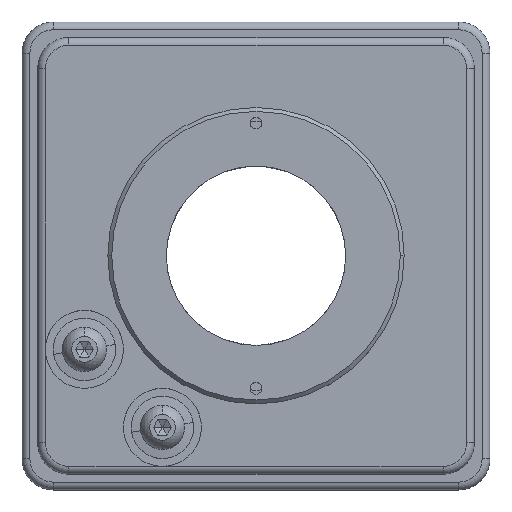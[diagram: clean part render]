
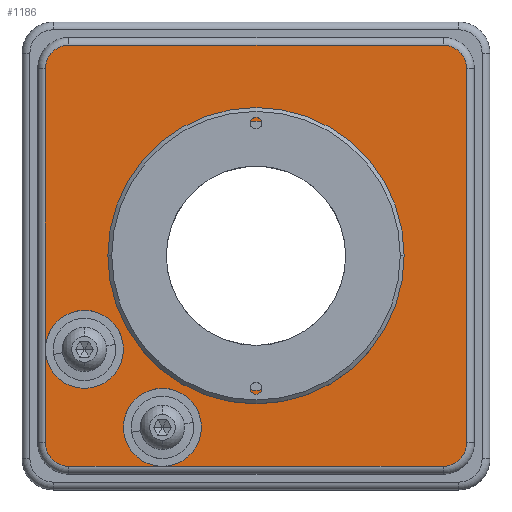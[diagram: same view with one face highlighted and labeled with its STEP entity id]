
A CAD part, top view. The second image highlights one B-rep face of the part: STEP entity #1186.
In plain terms, the highlighted planar face has unit normal (0, 0, 1).
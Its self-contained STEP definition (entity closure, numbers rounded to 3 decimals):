
#52 = VECTOR ( 'NONE', #1937, 1000. ) ;
#121 = VERTEX_POINT ( 'NONE', #7230 ) ;
#160 = EDGE_CURVE ( 'NONE', #1125, #2885, #7337, .T. ) ;
#247 = FACE_OUTER_BOUND ( 'NONE', #3366, .T. ) ;
#256 = LINE ( 'NONE', #1835, #7235 ) ;
#306 = VERTEX_POINT ( 'NONE', #1409 ) ;
#355 = EDGE_CURVE ( 'NONE', #8410, #6464, #5867, .T. ) ;
#435 = DIRECTION ( 'NONE',  ( 1., 0., 0. ) ) ;
#489 = LINE ( 'NONE', #5957, #2106 ) ;
#622 = VERTEX_POINT ( 'NONE', #7170 ) ;
#628 = EDGE_CURVE ( 'NONE', #121, #1125, #5755, .T. ) ;
#637 = VERTEX_POINT ( 'NONE', #5844 ) ;
#650 = EDGE_CURVE ( 'NONE', #8393, #6468, #1967, .T. ) ;
#658 = DIRECTION ( 'NONE',  ( 1., 0., 0. ) ) ;
#766 = CIRCLE ( 'NONE', #3769, 3. ) ;
#839 = CARTESIAN_POINT ( 'NONE',  ( 0., 0., 18. ) ) ;
#889 = DIRECTION ( 'NONE',  ( 0., 1., 0. ) ) ;
#1072 = CARTESIAN_POINT ( 'NONE',  ( -17., -12., 18. ) ) ;
#1113 = ORIENTED_EDGE ( 'NONE', *, *, #4058, .T. ) ;
#1125 = VERTEX_POINT ( 'NONE', #1837 ) ;
#1143 = DIRECTION ( 'NONE',  ( 0., 0., 1. ) ) ;
#1186 = ADVANCED_FACE ( 'NONE', ( #247, #5453 ), #6049, .T. ) ;
#1409 = CARTESIAN_POINT ( 'NONE',  ( 27., -24., 18. ) ) ;
#1534 = DIRECTION ( 'NONE',  ( 1., 0., 0. ) ) ;
#1555 = EDGE_LOOP ( 'NONE', ( #8405, #2922 ) ) ;
#1609 = CARTESIAN_POINT ( 'NONE',  ( 24., -27., 18. ) ) ;
#1681 = VECTOR ( 'NONE', #7447, 1000. ) ;
#1721 = CARTESIAN_POINT ( 'NONE',  ( -12., -22., 18. ) ) ;
#1824 = DIRECTION ( 'NONE',  ( 0., 0., 1. ) ) ;
#1835 = CARTESIAN_POINT ( 'NONE',  ( -27., -24., 18. ) ) ;
#1837 = CARTESIAN_POINT ( 'NONE',  ( -12., -27., 18. ) ) ;
#1853 = AXIS2_PLACEMENT_3D ( 'NONE', #3808, #8497, #4489 ) ;
#1923 = ORIENTED_EDGE ( 'NONE', *, *, #3958, .F. ) ;
#1937 = DIRECTION ( 'NONE',  ( 0., -1., 0. ) ) ;
#1948 = DIRECTION ( 'NONE',  ( 0., 0., 1. ) ) ;
#1967 = CIRCLE ( 'NONE', #3782, 17.25 ) ;
#1984 = AXIS2_PLACEMENT_3D ( 'NONE', #8504, #4495, #435 ) ;
#2043 = CARTESIAN_POINT ( 'NONE',  ( 17.25, 0., 18. ) ) ;
#2106 = VECTOR ( 'NONE', #7299, 1000. ) ;
#2181 = CARTESIAN_POINT ( 'NONE',  ( -24., 24., 18. ) ) ;
#2190 = EDGE_CURVE ( 'NONE', #6468, #8393, #7482, .T. ) ;
#2235 = ORIENTED_EDGE ( 'NONE', *, *, #8031, .T. ) ;
#2293 = VERTEX_POINT ( 'NONE', #7672 ) ;
#2350 = CARTESIAN_POINT ( 'NONE',  ( 24., -27., 18. ) ) ;
#2392 = DIRECTION ( 'NONE',  ( 1., 0., 0. ) ) ;
#2423 = ORIENTED_EDGE ( 'NONE', *, *, #3597, .T. ) ;
#2531 = DIRECTION ( 'NONE',  ( 0., 0., 1. ) ) ;
#2603 = CIRCLE ( 'NONE', #5066, 5. ) ;
#2768 = CARTESIAN_POINT ( 'NONE',  ( -24., 27., 18. ) ) ;
#2862 = DIRECTION ( 'NONE',  ( 1., 0., 0. ) ) ;
#2885 = VERTEX_POINT ( 'NONE', #5827 ) ;
#2922 = ORIENTED_EDGE ( 'NONE', *, *, #2190, .F. ) ;
#2952 = CIRCLE ( 'NONE', #7186, 5. ) ;
#3001 = VECTOR ( 'NONE', #889, 1000. ) ;
#3015 = DIRECTION ( 'NONE',  ( 1., 0., 0. ) ) ;
#3362 = CARTESIAN_POINT ( 'NONE',  ( -28., -28., 18. ) ) ;
#3366 = EDGE_LOOP ( 'NONE', ( #8238, #4335, #8185, #1923, #7781, #4415, #6025, #2235, #5668, #6176, #3658, #1113, #8538, #5623, #2423 ) ) ;
#3508 = AXIS2_PLACEMENT_3D ( 'NONE', #839, #5581, #1534 ) ;
#3597 = EDGE_CURVE ( 'NONE', #2293, #637, #3664, .T. ) ;
#3658 = ORIENTED_EDGE ( 'NONE', *, *, #355, .T. ) ;
#3664 = LINE ( 'NONE', #6644, #52 ) ;
#3677 = LINE ( 'NONE', #2768, #1681 ) ;
#3724 = CARTESIAN_POINT ( 'NONE',  ( 24., 24., 18. ) ) ;
#3769 = AXIS2_PLACEMENT_3D ( 'NONE', #5189, #1143, #5859 ) ;
#3782 = AXIS2_PLACEMENT_3D ( 'NONE', #6562, #2531, #7219 ) ;
#3808 = CARTESIAN_POINT ( 'NONE',  ( 24., -24., 18. ) ) ;
#3902 = CARTESIAN_POINT ( 'NONE',  ( -22., -12., 18. ) ) ;
#3954 = CIRCLE ( 'NONE', #1853, 3. ) ;
#3958 = EDGE_CURVE ( 'NONE', #2885, #121, #8278, .T. ) ;
#4058 = EDGE_CURVE ( 'NONE', #6464, #2293, #256, .T. ) ;
#4155 = CARTESIAN_POINT ( 'NONE',  ( 24., 27., 18. ) ) ;
#4335 = ORIENTED_EDGE ( 'NONE', *, *, #4680, .T. ) ;
#4415 = ORIENTED_EDGE ( 'NONE', *, *, #5495, .T. ) ;
#4418 = DIRECTION ( 'NONE',  ( 1., 0., 0. ) ) ;
#4489 = DIRECTION ( 'NONE',  ( 1., 0., 0. ) ) ;
#4495 = DIRECTION ( 'NONE',  ( 0., 0., 1. ) ) ;
#4532 = VERTEX_POINT ( 'NONE', #4155 ) ;
#4580 = DIRECTION ( 'NONE',  ( 1., 0., 0. ) ) ;
#4680 = EDGE_CURVE ( 'NONE', #6951, #1125, #4826, .T. ) ;
#4725 = DIRECTION ( 'NONE',  ( 0., 0., 1. ) ) ;
#4826 = LINE ( 'NONE', #2350, #8154 ) ;
#4887 = EDGE_CURVE ( 'NONE', #2293, #5933, #2952, .T. ) ;
#5066 = AXIS2_PLACEMENT_3D ( 'NONE', #5849, #1824, #6536 ) ;
#5077 = EDGE_CURVE ( 'NONE', #4532, #8410, #3677, .T. ) ;
#5189 = CARTESIAN_POINT ( 'NONE',  ( -24., -24., 18. ) ) ;
#5453 = FACE_BOUND ( 'NONE', #1555, .T. ) ;
#5495 = EDGE_CURVE ( 'NONE', #1125, #7514, #489, .T. ) ;
#5581 = DIRECTION ( 'NONE',  ( 0., 0., 1. ) ) ;
#5623 = ORIENTED_EDGE ( 'NONE', *, *, #4887, .F. ) ;
#5668 = ORIENTED_EDGE ( 'NONE', *, *, #6314, .T. ) ;
#5755 = CIRCLE ( 'NONE', #1984, 5. ) ;
#5827 = CARTESIAN_POINT ( 'NONE',  ( -7., -22., 18. ) ) ;
#5844 = CARTESIAN_POINT ( 'NONE',  ( -27., -24., 18. ) ) ;
#5849 = CARTESIAN_POINT ( 'NONE',  ( -22., -12., 18. ) ) ;
#5859 = DIRECTION ( 'NONE',  ( 1., 0., 0. ) ) ;
#5863 = DIRECTION ( 'NONE',  ( 0., -1., 0. ) ) ;
#5867 = CIRCLE ( 'NONE', #7269, 3. ) ;
#5933 = VERTEX_POINT ( 'NONE', #1072 ) ;
#5957 = CARTESIAN_POINT ( 'NONE',  ( 24., -27., 18. ) ) ;
#5977 = CARTESIAN_POINT ( 'NONE',  ( -12., -22., 18. ) ) ;
#6025 = ORIENTED_EDGE ( 'NONE', *, *, #7649, .T. ) ;
#6049 = PLANE ( 'NONE',  #6162 ) ;
#6162 = AXIS2_PLACEMENT_3D ( 'NONE', #3362, #4725, #658 ) ;
#6176 = ORIENTED_EDGE ( 'NONE', *, *, #5077, .T. ) ;
#6294 = CIRCLE ( 'NONE', #6639, 3. ) ;
#6308 = CARTESIAN_POINT ( 'NONE',  ( 27., 24., 18. ) ) ;
#6314 = EDGE_CURVE ( 'NONE', #622, #4532, #6294, .T. ) ;
#6434 = DIRECTION ( 'NONE',  ( 0., 0., 1. ) ) ;
#6464 = VERTEX_POINT ( 'NONE', #8536 ) ;
#6468 = VERTEX_POINT ( 'NONE', #6563 ) ;
#6536 = DIRECTION ( 'NONE',  ( 1., 0., 0. ) ) ;
#6562 = CARTESIAN_POINT ( 'NONE',  ( 0., 0., 18. ) ) ;
#6563 = CARTESIAN_POINT ( 'NONE',  ( -17.25, 0., 18. ) ) ;
#6587 = LINE ( 'NONE', #6308, #3001 ) ;
#6639 = AXIS2_PLACEMENT_3D ( 'NONE', #3724, #8417, #4418 ) ;
#6644 = CARTESIAN_POINT ( 'NONE',  ( -27., -24., 18. ) ) ;
#6657 = DIRECTION ( 'NONE',  ( 1., 0., 0. ) ) ;
#6891 = DIRECTION ( 'NONE',  ( 0., 0., 1. ) ) ;
#6951 = VERTEX_POINT ( 'NONE', #7659 ) ;
#7110 = EDGE_CURVE ( 'NONE', #5933, #2293, #2603, .T. ) ;
#7170 = CARTESIAN_POINT ( 'NONE',  ( 27., 24., 18. ) ) ;
#7186 = AXIS2_PLACEMENT_3D ( 'NONE', #3902, #8585, #4580 ) ;
#7219 = DIRECTION ( 'NONE',  ( 1., 0., 0. ) ) ;
#7230 = CARTESIAN_POINT ( 'NONE',  ( -17., -22., 18. ) ) ;
#7235 = VECTOR ( 'NONE', #5863, 1000. ) ;
#7269 = AXIS2_PLACEMENT_3D ( 'NONE', #2181, #6891, #2862 ) ;
#7299 = DIRECTION ( 'NONE',  ( 1., 0., 0. ) ) ;
#7337 = CIRCLE ( 'NONE', #8327, 5. ) ;
#7447 = DIRECTION ( 'NONE',  ( -1., 0., 0. ) ) ;
#7482 = CIRCLE ( 'NONE', #3508, 17.25 ) ;
#7514 = VERTEX_POINT ( 'NONE', #1609 ) ;
#7649 = EDGE_CURVE ( 'NONE', #7514, #306, #3954, .T. ) ;
#7659 = CARTESIAN_POINT ( 'NONE',  ( -24., -27., 18. ) ) ;
#7672 = CARTESIAN_POINT ( 'NONE',  ( -27., -12., 18. ) ) ;
#7725 = AXIS2_PLACEMENT_3D ( 'NONE', #1721, #6434, #2392 ) ;
#7781 = ORIENTED_EDGE ( 'NONE', *, *, #160, .F. ) ;
#8031 = EDGE_CURVE ( 'NONE', #306, #622, #6587, .T. ) ;
#8100 = CARTESIAN_POINT ( 'NONE',  ( -24., 27., 18. ) ) ;
#8154 = VECTOR ( 'NONE', #3015, 1000. ) ;
#8185 = ORIENTED_EDGE ( 'NONE', *, *, #628, .F. ) ;
#8219 = EDGE_CURVE ( 'NONE', #637, #6951, #766, .T. ) ;
#8238 = ORIENTED_EDGE ( 'NONE', *, *, #8219, .T. ) ;
#8278 = CIRCLE ( 'NONE', #7725, 5. ) ;
#8327 = AXIS2_PLACEMENT_3D ( 'NONE', #5977, #1948, #6657 ) ;
#8393 = VERTEX_POINT ( 'NONE', #2043 ) ;
#8405 = ORIENTED_EDGE ( 'NONE', *, *, #650, .F. ) ;
#8410 = VERTEX_POINT ( 'NONE', #8100 ) ;
#8417 = DIRECTION ( 'NONE',  ( 0., 0., 1. ) ) ;
#8497 = DIRECTION ( 'NONE',  ( 0., 0., 1. ) ) ;
#8504 = CARTESIAN_POINT ( 'NONE',  ( -12., -22., 18. ) ) ;
#8536 = CARTESIAN_POINT ( 'NONE',  ( -27., 24., 18. ) ) ;
#8538 = ORIENTED_EDGE ( 'NONE', *, *, #7110, .F. ) ;
#8585 = DIRECTION ( 'NONE',  ( 0., 0., 1. ) ) ;
